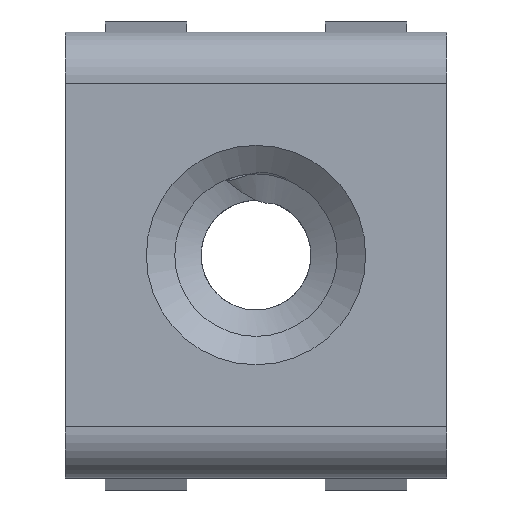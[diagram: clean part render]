
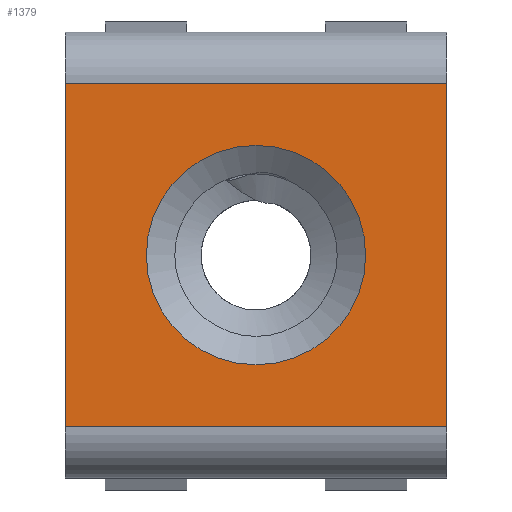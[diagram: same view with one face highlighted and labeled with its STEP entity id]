
A CAD part, top view. The second image highlights one B-rep face of the part: STEP entity #1379.
In plain terms, the highlighted planar face has unit normal (0, 0, 1).
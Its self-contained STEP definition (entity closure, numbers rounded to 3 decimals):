
#1201 = VERTEX_POINT('',#1202);
#1202 = CARTESIAN_POINT('',(-3.505,-3.156,8.103));
#1209 = EDGE_CURVE('',#1210,#1201,#1212,.T.);
#1210 = VERTEX_POINT('',#1211);
#1211 = CARTESIAN_POINT('',(-3.505,3.156,8.103));
#1212 = LINE('',#1213,#1214);
#1213 = CARTESIAN_POINT('',(-3.505,3.156,8.103));
#1214 = VECTOR('',#1215,1.);
#1215 = DIRECTION('',(0.,-1.,0.));
#1342 = VERTEX_POINT('',#1343);
#1343 = CARTESIAN_POINT('',(3.505,-3.156,8.103));
#1358 = EDGE_CURVE('',#1342,#1201,#1359,.T.);
#1359 = B_SPLINE_CURVE_WITH_KNOTS('',1,(#1360,#1361),.UNSPECIFIED.,.F.,
  .F.,(2,2),(0.,1.),.PIECEWISE_BEZIER_KNOTS.);
#1360 = CARTESIAN_POINT('',(3.505,-3.156,8.103));
#1361 = CARTESIAN_POINT('',(-3.505,-3.156,8.103));
#1379 = ADVANCED_FACE('',(#1380,#1397),#1408,.T.);
#1380 = FACE_BOUND('',#1381,.T.);
#1381 = EDGE_LOOP('',(#1382,#1383,#1391,#1396));
#1382 = ORIENTED_EDGE('',*,*,#1358,.F.);
#1383 = ORIENTED_EDGE('',*,*,#1384,.T.);
#1384 = EDGE_CURVE('',#1342,#1385,#1387,.T.);
#1385 = VERTEX_POINT('',#1386);
#1386 = CARTESIAN_POINT('',(3.505,3.156,8.103));
#1387 = LINE('',#1388,#1389);
#1388 = CARTESIAN_POINT('',(3.505,-3.156,8.103));
#1389 = VECTOR('',#1390,1.);
#1390 = DIRECTION('',(0.,1.,0.));
#1391 = ORIENTED_EDGE('',*,*,#1392,.F.);
#1392 = EDGE_CURVE('',#1210,#1385,#1393,.T.);
#1393 = B_SPLINE_CURVE_WITH_KNOTS('',1,(#1394,#1395),.UNSPECIFIED.,.F.,
  .F.,(2,2),(0.,1.),.PIECEWISE_BEZIER_KNOTS.);
#1394 = CARTESIAN_POINT('',(-3.505,3.156,8.103));
#1395 = CARTESIAN_POINT('',(3.505,3.156,8.103));
#1396 = ORIENTED_EDGE('',*,*,#1209,.T.);
#1397 = FACE_BOUND('',#1398,.T.);
#1398 = EDGE_LOOP('',(#1399));
#1399 = ORIENTED_EDGE('',*,*,#1400,.T.);
#1400 = EDGE_CURVE('',#1401,#1401,#1403,.T.);
#1401 = VERTEX_POINT('',#1402);
#1402 = CARTESIAN_POINT('',(-2.017,0.,8.103));
#1403 = CIRCLE('',#1404,2.017);
#1404 = AXIS2_PLACEMENT_3D('',#1405,#1406,#1407);
#1405 = CARTESIAN_POINT('',(0.,0.,8.103));
#1406 = DIRECTION('',(0.,0.,-1.));
#1407 = DIRECTION('',(-1.,0.,0.));
#1408 = PLANE('',#1409);
#1409 = AXIS2_PLACEMENT_3D('',#1410,#1411,#1412);
#1410 = CARTESIAN_POINT('',(0.,0.,
    8.103));
#1411 = DIRECTION('',(0.,0.,1.));
#1412 = DIRECTION('',(1.,0.,-0.));
